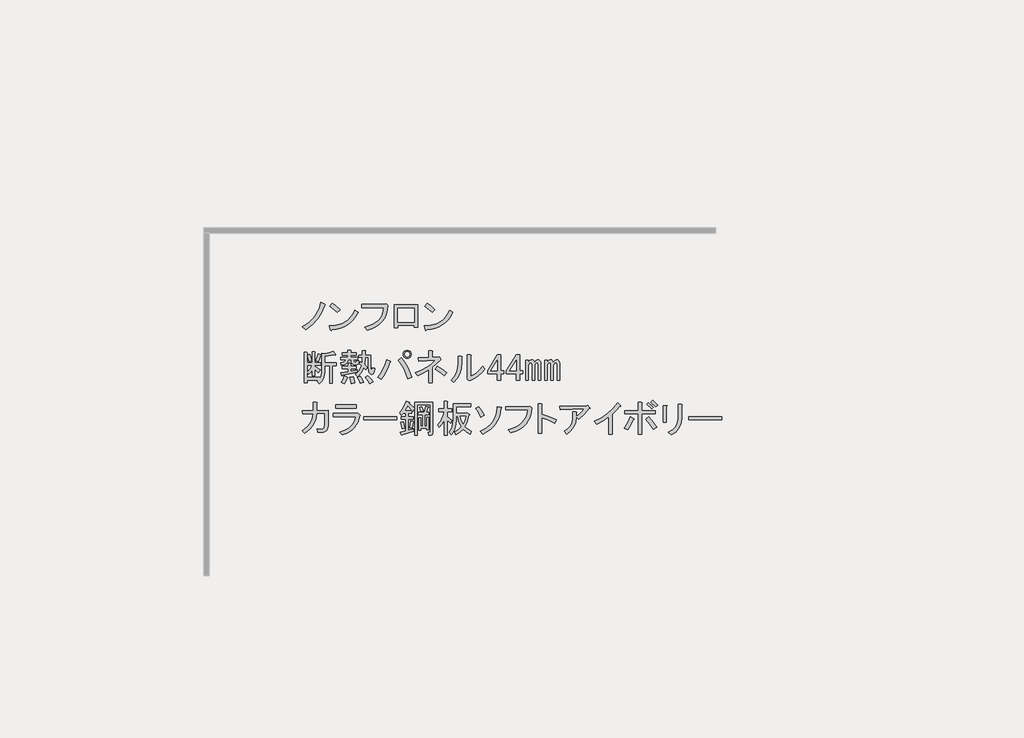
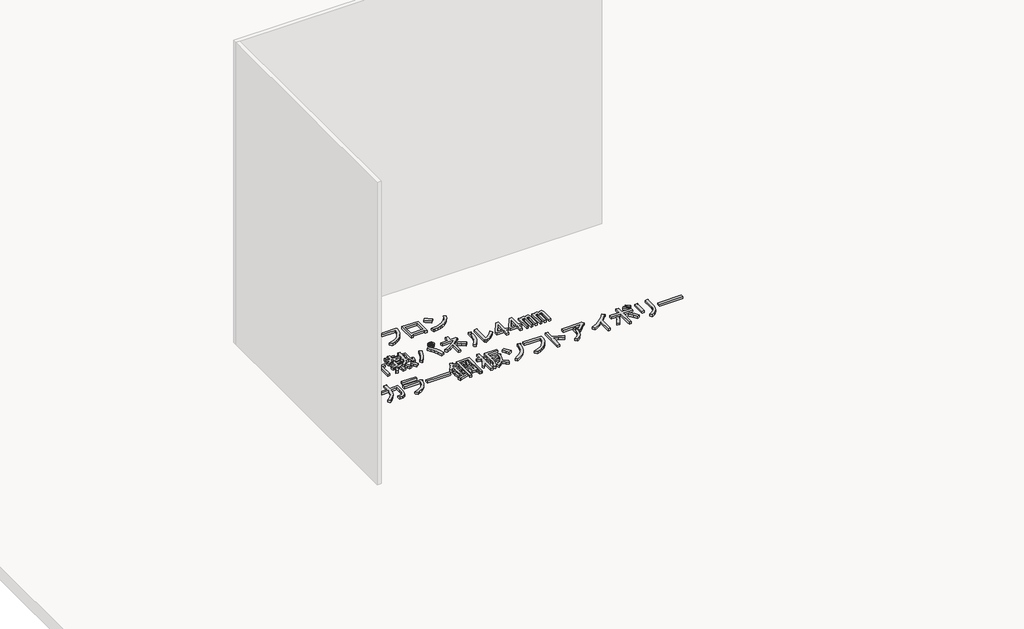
# One storey, part 66 of 117: 1 proxy.
"""IFC4 building model written with IfcOpenShell, lengths in millimetres."""

from ifc_helpers import new_model, si_unit, frame, origin, place, context, project, spatial, polyline, outline, extrude, element, save

model = new_model("IFC4")

# Units and contexts
model_context = context("Model", 3, world=origin())
ifc_project = project(units=[si_unit("LENGTHUNIT", "METRE", prefix="MILLI")], contexts=[model_context])

# Site, building, storey
site = spatial("IfcSite", under=ifc_project)
building = spatial("IfcBuilding", under=site)
storey = spatial("IfcBuildingStorey", under=building, Name="レベル 1", Elevation=500.0)

# Proxy
placement = place(None, origin())
element("IfcBuildingElementProxy", 1, Name="200㎜\u3000MS Pゴシック", ObjectType="200㎜\u3000MS Pゴシック", at=placement, inside=storey, context=model_context, shape_type="SweptSolid", body=[
    extrude(outline(polyline([(-23056.3293015, 11392.9503118), (-23081.9047498, 11333.1784775), (-23110.353844, 11287.2001434), (-23152.0217093, 11241.7965385), (-23201.1610538, 11204.439142), (-23228.7480543, 11226.2788507), (-23181.0455327, 11256.7394971), (-23141.3892195, 11295.2463519), (-23124.0036619, 11319.1694538), (-23108.6296565, 11347.2593423), (-23095.2672031, 11379.5160173), (-23083.9163019, 11415.9394788), (-23052.8809264, 11402.1459786), (-23049.7199159, 11397.5481452), (-23056.3293015, 11392.9503118)])), frame((0.0, 0.0, 500.0), z_axis=(0.0, 0.0, 1.0), x_axis=(1.0, 0.0, 0.0)), (0.0, 0.0, 1.0), 25.0),
    extrude(outline(polyline([(-22956.6022948, 11337.7763109), (-23015.2246708, 11384.9041033), (-22995.6838788, 11409.0427287), (-22968.3842429, 11389.2145721), (-22934.7625862, 11359.6160196), (-22956.6022948, 11337.7763109)])), frame((0.0, 0.0, 500.0), z_axis=(0.0, 0.0, 1.0), x_axis=(1.0, 0.0, 0.0)), (0.0, 0.0, 1.0), 25.0),
    extrude(outline(polyline([(-22794.5286672, 11337.7763109), (-22811.052131, 11308.034076), (-22830.1618761, 11282.0275808), (-22851.8579025, 11259.7568252), (-22876.1402102, 11241.2218093), (-22903.0087992, 11226.422533), (-22932.4636694, 11215.3589964), (-22964.504821, 11208.0311994), (-22999.1322539, 11204.439142), (-23004.8795456, 11196.3929336), (-23010.6268374, 11202.1402253), (-23019.8225042, 11232.0261425), (-22983.9917321, 11234.7022252), (-22951.2142088, 11241.0062859), (-22921.4899342, 11250.9383244), (-22894.8189084, 11264.4983409), (-22871.2011313, 11281.6863354), (-22850.636603, 11302.5023077), (-22833.1253234, 11326.946258), (-22818.6672926, 11355.0181862), (-22794.5286672, 11337.7763109)])), frame((0.0, 0.0, 500.0), z_axis=(0.0, 0.0, 1.0), x_axis=(1.0, 0.0, 0.0)), (0.0, 0.0, 1.0), 25.0),
    extrude(outline(polyline([(-22743.7685864, 11222.8304757), (-22709.985287, 11232.5110702), (-22680.4765359, 11244.8857078), (-22655.242333, 11259.9543884), (-22634.2826783, 11277.717112), (-22617.597572, 11298.1738786), (-22605.1870138, 11321.3246882), (-22597.0510039, 11347.1695409), (-22593.1895423, 11375.7084365), (-22765.6082951, 11375.7084365), (-22765.6082951, 11400.9965202), (-22590.8906256, 11400.9965202), (-22574.7982086, 11404.4448953), (-22562.1541668, 11392.9503118), (-22565.674383, 11356.4550091), (-22573.9361149, 11323.4080815), (-22586.9393625, 11293.8095289), (-22604.6841258, 11267.6593514), (-22627.1704048, 11244.957549), (-22654.3981995, 11225.7041216), (-22686.3675099, 11209.8990692), (-22723.078336, 11197.5423919), (-22743.7685864, 11222.8304757)])), frame((0.0, 0.0, 500.0), z_axis=(0.0, 0.0, 1.0), x_axis=(1.0, 0.0, 0.0)), (0.0, 0.0, 1.0), 25.0),
    extrude(outline(polyline([(-22329.044013, 11223.979934), (-22355.4815551, 11223.979934), (-22355.4815551, 11236.6239759), (-22483.0714321, 11236.6239759), (-22483.0714321, 11218.2326423), (-22509.5089742, 11218.2326423), (-22509.5089742, 11397.5481452), (-22329.044013, 11397.5481452), (-22329.044013, 11223.979934)]), holes=[polyline([(-22483.0714321, 11372.2600614), (-22483.0714321, 11261.9120596), (-22355.4815551, 11261.9120596), (-22355.4815551, 11372.2600614), (-22483.0714321, 11372.2600614)])]), frame((0.0, 0.0, 500.0), z_axis=(0.0, 0.0, 1.0), x_axis=(1.0, 0.0, 0.0)), (0.0, 0.0, 1.0), 25.0),
    extrude(outline(polyline([(-22052.9900951, 11337.7763109), (-22069.5135589, 11308.034076), (-22088.623304, 11282.0275808), (-22110.3193304, 11259.7568252), (-22134.6016381, 11241.2218093), (-22161.4702271, 11226.422533), (-22190.9250974, 11215.3589964), (-22222.9662489, 11208.0311994), (-22257.5936818, 11204.439142), (-22263.3409736, 11196.3929336), (-22269.0882653, 11202.1402253), (-22278.2839321, 11232.0261425), (-22242.4531601, 11234.7022252), (-22209.6756367, 11241.0062859), (-22179.9513622, 11250.9383244), (-22153.2803363, 11264.4983409), (-22129.6625593, 11281.6863354), (-22109.0980309, 11302.5023077), (-22091.5867514, 11326.946258), (-22077.1287205, 11355.0181862), (-22052.9900951, 11337.7763109)])), frame((0.0, 0.0, 500.0), z_axis=(0.0, 0.0, 1.0), x_axis=(1.0, 0.0, 0.0)), (0.0, 0.0, 1.0), 25.0),
    extrude(outline(polyline([(-22215.0637228, 11337.7763109), (-22273.6860987, 11384.9041033), (-22254.1453067, 11409.0427287), (-22226.8456709, 11389.2145721), (-22193.2240141, 11359.6160196), (-22215.0637228, 11337.7763109)])), frame((0.0, 0.0, 500.0), z_axis=(0.0, 0.0, 1.0), x_axis=(1.0, 0.0, 0.0)), (0.0, 0.0, 1.0), 25.0),
    extrude(outline(polyline([(-23122.9978859, 10960.7654779), (-23105.7560106, 11013.6405621), (-23085.0657603, 11007.8932704), (-23083.3415727, 11004.7322599), (-23087.364677, 11002.1459786), (-23104.6065522, 10953.8687278), (-23122.9978859, 10960.7654779)])), frame((0.0, 0.0, 500.0), z_axis=(0.0, 0.0, 1.0), x_axis=(1.0, 0.0, 0.0)), (0.0, 0.0, 1.0), 25.0),
    extrude(outline(polyline([(-22968.9704667, 11009.0427287), (-22970.6946542, 11004.4448953), (-22978.1661335, 11006.743812), (-23055.1798431, 10994.0997701), (-23055.1798431, 10944.673061), (-22963.2231749, 10944.673061), (-22963.2231749, 10922.8333523), (-22994.2585505, 10922.8333523), (-22994.2585505, 10782.5994334), (-23017.2477175, 10782.5994334), (-23017.2477175, 10922.8333523), (-23055.1798431, 10922.8333523), (-23055.1798431, 10873.4066432), (-23057.7661244, 10845.6041193), (-23065.5249683, 10820.8189236), (-23078.4563747, 10799.051056), (-23096.5603438, 10780.3005167), (-23113.8022191, 10799.8413086), (-23103.4570939, 10809.0369755), (-23193.1148454, 10809.0369755), (-23193.1148454, 10787.1972668), (-23216.1040124, 10787.1972668), (-23216.1040124, 11026.284604), (-23194.2643037, 11026.284604), (-23189.3791057, 11023.9856873), (-23193.1148454, 11019.3878539), (-23193.1148454, 10943.5236026), (-23150.5848863, 10943.5236026), (-23150.5848863, 11030.8824374), (-23132.1935527, 11030.8824374), (-23127.3083547, 11028.5835207), (-23131.0440943, 11023.9856873), (-23131.0440943, 10943.5236026), (-23087.364677, 10943.5236026), (-23087.364677, 10925.132269), (-23131.0440943, 10925.132269), (-23131.0440943, 10915.9366022), (-23090.813052, 10889.4990601), (-23104.6065522, 10867.6593514), (-23131.0440943, 10894.0968935), (-23131.0440943, 10841.2218093), (-23150.5848863, 10841.2218093), (-23150.5848863, 10889.4990601), (-23163.8036574, 10869.6709035), (-23178.1718868, 10853.8658512), (-23190.8159287, 10872.2571848), (-23168.97622, 10896.3958102), (-23151.7343447, 10925.132269), (-23193.1148454, 10925.132269), (-23193.1148454, 10830.8766841), (-23095.4108854, 10830.8766841), (-23095.4108854, 10817.0831839), (-23082.479479, 10841.2218093), (-23078.1690102, 10874.5561015), (-23078.1690102, 11019.3878539), (-23056.3293015, 11013.6405621), (-23020.1213634, 11021.1120414), (-22989.660717, 11034.3308125), (-22968.9704667, 11009.0427287)])), frame((0.0, 0.0, 500.0), z_axis=(0.0, 0.0, 1.0), x_axis=(1.0, 0.0, 0.0)), (0.0, 0.0, 1.0), 25.0),
    extrude(outline(polyline([(-23177.0224284, 10952.7192695), (-23189.6664703, 11003.2954369), (-23170.1256783, 11010.1921871), (-23162.3668344, 10986.0535617), (-23157.4816364, 10959.6160196), (-23177.0224284, 10952.7192695)])), frame((0.0, 0.0, 500.0), z_axis=(0.0, 0.0, 1.0), x_axis=(1.0, 0.0, 0.0)), (0.0, 0.0, 1.0), 25.0),
    extrude(outline(polyline([(-22878.1632569, 10832.0261425), (-22874.7148818, 10827.1409445), (-22880.4621736, 10823.979934), (-22890.2325696, 10798.4044857), (-22901.1524239, 10779.1510583), (-22924.141591, 10790.6456418), (-22911.4975491, 10814.209538), (-22901.1524239, 10841.2218093), (-22878.1632569, 10832.0261425)])), frame((0.0, 0.0, 500.0), z_axis=(0.0, 0.0, 1.0), x_axis=(1.0, 0.0, 0.0)), (0.0, 0.0, 1.0), 25.0),
    extrude(outline(polyline([(-22833.3343812, 10836.6239759), (-22823.2766206, 10809.32434), (-22818.3914226, 10787.1972668), (-22847.1278814, 10781.449975), (-22849.7141627, 10803.0023191), (-22857.4730066, 10833.1756008), (-22833.3343812, 10836.6239759)])), frame((0.0, 0.0, 500.0), z_axis=(0.0, 0.0, 1.0), x_axis=(1.0, 0.0, 0.0)), (0.0, 0.0, 1.0), 25.0),
    extrude(outline(polyline([(-22718.388546, 10842.3712677), (-22693.6751914, 10821.1062881), (-22674.7091286, 10796.3929336), (-22701.1466707, 10781.449975), (-22720.4000981, 10811.0485276), (-22739.0787963, 10830.8766841), (-22718.388546, 10842.3712677)])), frame((0.0, 0.0, 500.0), z_axis=(0.0, 0.0, 1.0), x_axis=(1.0, 0.0, 0.0)), (0.0, 0.0, 1.0), 25.0),
    extrude(outline(polyline([(-22777.0109219, 10783.7488917), (-22785.344495, 10808.4622463), (-22798.8506306, 10829.7272258), (-22778.1603803, 10837.7734343), (-22761.2058696, 10816.2210902), (-22749.4239215, 10792.9445585), (-22777.0109219, 10783.7488917)])), frame((0.0, 0.0, 500.0), z_axis=(0.0, 0.0, 1.0), x_axis=(1.0, 0.0, 0.0)), (0.0, 0.0, 1.0), 25.0),
    extrude(outline(polyline([(-22916.0953825, 10846.9691011), (-22918.1069346, 10842.0839031), (-22921.8426743, 10843.520726), (-22927.589966, 10867.6593514), (-22872.4159651, 10875.7055599), (-22872.4159651, 10898.6947269), (-22916.0953825, 10898.6947269), (-22916.0953825, 10917.0860605), (-22872.4159651, 10917.0860605), (-22872.4159651, 10940.0752276), (-22854.0246315, 10940.0752276), (-22849.1394335, 10937.7763109), (-22852.8751732, 10933.1784775), (-22852.8751732, 10917.0860605), (-22808.0462974, 10917.0860605), (-22808.0462974, 10898.6947269), (-22852.8751732, 10898.6947269), (-22852.8751732, 10879.1539349), (-22802.2990057, 10888.3496017), (-22802.2990057, 10872.2571848), (-22916.0953825, 10846.9691011)])), frame((0.0, 0.0, 500.0), z_axis=(0.0, 0.0, 1.0), x_axis=(1.0, 0.0, 0.0)), (0.0, 0.0, 1.0), 25.0),
    extrude(outline(polyline([(-22845.978423, 10968.8116864), (-22871.2665068, 10968.8116864), (-22875.8643402, 10951.3542877), (-22886.2094654, 10938.0636755), (-22902.3018823, 10928.9398498), (-22924.141591, 10923.9828107), (-22928.7394244, 10943.5236026), (-22903.4513406, 10952.1445403), (-22895.9798614, 10959.4723373), (-22891.9567571, 10968.8116864), (-22927.589966, 10968.8116864), (-22927.589966, 10987.20302), (-22873.5654235, 10987.20302), (-22873.5654235, 11004.4448953), (-22917.2448409, 11004.4448953), (-22917.2448409, 11022.8362289), (-22873.5654235, 11022.8362289), (-22873.5654235, 11041.2275626), (-22851.7257148, 11041.2275626), (-22846.8405168, 11038.9286459), (-22850.5762564, 11034.3308125), (-22850.5762564, 11022.8362289), (-22808.0462974, 11022.8362289), (-22808.0462974, 11004.4448953), (-22850.5762564, 11004.4448953), (-22850.5762564, 10987.20302), (-22797.7011723, 10987.20302), (-22797.7011723, 10968.8116864), (-22826.4376311, 10968.8116864), (-22826.4376311, 10956.1676445), (-22825.0008081, 10950.9950819), (-22820.6903393, 10949.2708944), (-22810.3452141, 10949.2708944), (-22806.6094745, 10952.4319049), (-22806.8968391, 10961.9149363), (-22787.3560471, 10959.6160196), (-22790.229693, 10938.0636755), (-22795.5459378, 10932.6755894), (-22803.448464, 10930.8795608), (-22827.5870894, 10930.8795608), (-22841.3805896, 10935.7647588), (-22845.978423, 10950.4203528), (-22845.978423, 10968.8116864)])), frame((0.0, 0.0, 500.0), z_axis=(0.0, 0.0, 1.0), x_axis=(1.0, 0.0, 0.0)), (0.0, 0.0, 1.0), 25.0),
    extrude(outline(polyline([(-22714.9401709, 10986.0535617), (-22736.7798796, 10986.0535617), (-22741.377713, 10928.5806441), (-22721.836921, 10910.1893104), (-22732.1820462, 10888.3496017), (-22748.2744631, 10904.4420187), (-22767.5278905, 10866.7972576), (-22797.7011723, 10834.3250592), (-22814.9430475, 10855.0153095), (-22799.8564067, 10866.9409399), (-22786.7813179, 10882.0275808), (-22775.7177813, 10900.2752321), (-22766.6657967, 10921.683894), (-22783.907672, 10936.6268525), (-22775.8614636, 10953.8687278), (-22762.0679633, 10943.5236026), (-22759.7690466, 10986.0535617), (-22787.3560471, 10986.0535617), (-22787.3560471, 11004.4448953), (-22759.7690466, 11004.4448953), (-22759.7690466, 11038.9286459), (-22737.9293379, 11038.9286459), (-22733.04414, 11036.6297292), (-22736.7798796, 11032.0318957), (-22736.7798796, 11004.4448953), (-22695.3993789, 11004.4448953), (-22695.3993789, 10907.8903937), (-22691.9510039, 10883.7517683), (-22688.7181523, 10881.7402162), (-22685.9163475, 10884.9012267), (-22681.6058787, 10906.7409354), (-22662.0650867, 10899.8441853), (-22666.591079, 10873.0474374), (-22674.421764, 10857.0268616), (-22685.5571418, 10851.7824579), (-22699.9972123, 10857.3142262), (-22706.5347567, 10864.6420232), (-22711.2044313, 10876.280289), (-22714.9401709, 10912.4882271), (-22714.9401709, 10986.0535617)])), frame((0.0, 0.0, 500.0), z_axis=(0.0, 0.0, 1.0), x_axis=(1.0, 0.0, 0.0)), (0.0, 0.0, 1.0), 25.0),
    extrude(outline(polyline([(-22456.3120417, 10983.754645), (-22429.6589762, 10947.0438188), (-22407.1726971, 10909.3272167), (-22388.8532047, 10870.6048384), (-22374.7004987, 10830.8766841), (-22405.7358742, 10820.531559), (-22421.1817208, 10863.6362472), (-22438.7828018, 10902.143102), (-22458.5391173, 10936.0521234), (-22480.4506671, 10965.3633113), (-22456.3120417, 10983.754645)])), frame((0.0, 0.0, 500.0), z_axis=(0.0, 0.0, 1.0), x_axis=(1.0, 0.0, 0.0)), (0.0, 0.0, 1.0), 25.0),
    extrude(outline(polyline([(-22543.6708765, 10957.3171029), (-22539.6477722, 10951.8571757), (-22545.9697932, 10946.9719777), (-22557.8954236, 10911.5542922), (-22572.9820644, 10877.717112), (-22591.2297158, 10845.460437), (-22612.6383776, 10814.7842672), (-22639.0759197, 10832.0261425), (-22615.8712292, 10863.4925649), (-22596.8333252, 10896.9705394), (-22581.9622078, 10932.460066), (-22571.2578769, 10969.9611447), (-22543.6708765, 10957.3171029)])), frame((0.0, 0.0, 500.0), z_axis=(0.0, 0.0, 1.0), x_axis=(1.0, 0.0, 0.0)), (0.0, 0.0, 1.0), 25.0),
    extrude(outline(polyline([(-22410.3337076, 10978.0073532), (-22422.9777495, 10980.3062699), (-22433.3228747, 10987.20302), (-22440.2196248, 10997.5481452), (-22442.5185415, 11010.1921871), (-22440.2196248, 11022.8362289), (-22433.3228747, 11033.1813541), (-22422.9777495, 11040.0781042), (-22410.3337076, 11042.3770209), (-22397.6896657, 11040.0781042), (-22387.3445406, 11033.1813541), (-22380.4477905, 11022.8362289), (-22378.1488738, 11010.1921871), (-22380.4477905, 10997.5481452), (-22387.3445406, 10987.20302), (-22397.6896657, 10980.3062699), (-22410.3337076, 10978.0073532)]), holes=[polyline([(-22410.3337076, 10989.5019367), (-22402.0001346, 10990.9387597), (-22395.390749, 10995.2492285), (-22391.0802802, 11001.858614), (-22389.6434573, 11010.1921871), (-22391.0802802, 11018.5257601), (-22395.390749, 11025.1351456), (-22402.0001346, 11029.4456145), (-22410.3337076, 11030.8824374), (-22418.6672807, 11029.4456145), (-22425.2766662, 11025.1351456), (-22429.587135, 11018.5257601), (-22431.023958, 11010.1921871), (-22429.587135, 11001.858614), (-22425.2766662, 10995.2492285), (-22418.6672807, 10990.9387597), (-22410.3337076, 10989.5019367)])]), frame((0.0, 0.0, 500.0), z_axis=(0.0, 0.0, 1.0), x_axis=(1.0, 0.0, 0.0)), (0.0, 0.0, 1.0), 25.0),
    extrude(outline(polyline([(-22120.6702029, 10844.6701844), (-22157.7402348, 10873.9813723), (-22190.7871624, 10895.2463519), (-22173.5452871, 10917.0860605), (-22134.7510677, 10893.8095289), (-22101.1294109, 10867.6593514), (-22120.6702029, 10844.6701844)])), frame((0.0, 0.0, 500.0), z_axis=(0.0, 0.0, 1.0), x_axis=(1.0, 0.0, 0.0)), (0.0, 0.0, 1.0), 25.0),
    extrude(outline(polyline([(-22166.648537, 10988.3524784), (-22159.7517869, 10990.6513951), (-22147.107745, 10973.4095198), (-22145.9582866, 10967.3748634), (-22151.7055784, 10965.3633113), (-22214.9257878, 10909.0398521), (-22214.9257878, 10788.3467251), (-22241.3633299, 10788.3467251), (-22241.3633299, 10890.6485184), (-22281.5943722, 10866.5098931), (-22326.4232479, 10844.6701844), (-22345.9640399, 10865.3604347), (-22300.4167527, 10884.8293855), (-22259.1799343, 10907.6030291), (-22222.2535848, 10933.6813655), (-22189.637704, 10963.0643946), (-22319.5264978, 10957.3171029), (-22322.9748729, 10982.6051866), (-22241.3633299, 10984.9041033), (-22241.3633299, 11036.6297292), (-22218.3741628, 11036.6297292), (-22212.3395065, 11033.1813541), (-22214.9257878, 11027.4340623), (-22214.9257878, 10986.0535617), (-22166.648537, 10988.3524784)])), frame((0.0, 0.0, 500.0), z_axis=(0.0, 0.0, 1.0), x_axis=(1.0, 0.0, 0.0)), (0.0, 0.0, 1.0), 25.0),
    extrude(outline(polyline([(-22067.703162, 10806.7380587), (-22042.5587606, 10835.9774056), (-22024.5984738, 10868.5214452), (-22013.8223018, 10904.3701775), (-22010.2302444, 10943.5236026), (-22010.2302444, 10995.2492285), (-21986.091619, 10995.2492285), (-21980.3443273, 10991.8008534), (-21983.7927023, 10986.0535617), (-21983.7927023, 10944.673061), (-21987.6002831, 10898.9102504), (-21999.0230255, 10858.17632), (-22018.0609295, 10822.4712699), (-22044.713995, 10791.7951002), (-22067.703162, 10806.7380587)])), frame((0.0, 0.0, 500.0), z_axis=(0.0, 0.0, 1.0), x_axis=(1.0, 0.0, 0.0)), (0.0, 0.0, 1.0), 25.0),
    extrude(outline(polyline([(-21913.6757429, 10837.7734343), (-21888.8905471, 10849.9864292), (-21865.1111275, 10867.0846222), (-21842.3374839, 10889.0680132), (-21820.5696163, 10915.9366022), (-21804.4771994, 10894.0968935), (-21827.753731, 10866.2943696), (-21853.9039086, 10842.6586322), (-21882.9277319, 10823.1896814), (-21914.8252012, 10807.8875171), (-21924.020868, 10803.2896837), (-21942.4122017, 10817.0831839), (-21940.113285, 10822.8304757), (-21940.113285, 11007.8932704), (-21915.9746596, 11007.8932704), (-21910.2273678, 11004.4448953), (-21913.6757429, 10998.6976035), (-21913.6757429, 10837.7734343)])), frame((0.0, 0.0, 500.0), z_axis=(0.0, 0.0, 1.0), x_axis=(1.0, 0.0, 0.0)), (0.0, 0.0, 1.0), 25.0),
    extrude(outline(polyline([(-21704.4743228, 11006.743812), (-21678.0367807, 11006.743812), (-21678.0367807, 10880.3033933), (-21653.8981553, 10880.3033933), (-21653.8981553, 10858.4636846), (-21678.0367807, 10858.4636846), (-21678.0367807, 10807.8875171), (-21704.4743228, 10807.8875171), (-21704.4743228, 10858.4636846), (-21781.4880324, 10858.4636846), (-21781.4880324, 10881.4528516), (-21704.4743228, 11006.743812)]), holes=[polyline([(-21704.4743228, 10964.213853), (-21756.1999486, 10880.3033933), (-21704.4743228, 10880.3033933), (-21704.4743228, 10964.213853)])]), frame((0.0, 0.0, 500.0), z_axis=(0.0, 0.0, 1.0), x_axis=(1.0, 0.0, 0.0)), (0.0, 0.0, 1.0), 25.0),
    extrude(outline(polyline([(-21557.3436537, 11006.743812), (-21530.9061116, 11006.743812), (-21530.9061116, 10880.3033933), (-21506.7674862, 10880.3033933), (-21506.7674862, 10858.4636846), (-21530.9061116, 10858.4636846), (-21530.9061116, 10807.8875171), (-21557.3436537, 10807.8875171), (-21557.3436537, 10858.4636846), (-21634.3573633, 10858.4636846), (-21634.3573633, 10881.4528516), (-21557.3436537, 11006.743812)]), holes=[polyline([(-21557.3436537, 10964.213853), (-21609.0692796, 10880.3033933), (-21557.3436537, 10880.3033933), (-21557.3436537, 10964.213853)])]), frame((0.0, 0.0, 500.0), z_axis=(0.0, 0.0, 1.0), x_axis=(1.0, 0.0, 0.0)), (0.0, 0.0, 1.0), 25.0),
    extrude(outline(polyline([(-21463.0880689, 10806.7380587), (-21482.6288608, 10806.7380587), (-21482.6288608, 10964.213853), (-21463.0880689, 10964.213853), (-21463.0880689, 10946.9719777), (-21451.0187562, 10962.4896654), (-21437.7999851, 10967.662228), (-21428.6043183, 10966.2254051), (-21421.7075682, 10961.9149363), (-21414.8108181, 10948.121436), (-21401.8794116, 10962.77703), (-21388.373276, 10967.662228), (-21380.0397029, 10966.2254051), (-21373.4303174, 10961.9149363), (-21368.2577548, 10953.2939986), (-21366.5335673, 10941.2246859), (-21366.5335673, 10806.7380587), (-21386.0743593, 10806.7380587), (-21386.0743593, 10930.8795608), (-21388.6606406, 10940.3625922), (-21396.4194844, 10943.5236026), (-21406.7646096, 10938.9257692), (-21412.799266, 10930.3048316), (-21414.8108181, 10920.5344356), (-21414.8108181, 10806.7380587), (-21434.3516101, 10806.7380587), (-21434.3516101, 10930.8795608), (-21436.9378914, 10940.3625922), (-21444.6967352, 10943.5236026), (-21455.0418604, 10938.9257692), (-21461.0765167, 10930.3048316), (-21463.0880689, 10920.5344356), (-21463.0880689, 10806.7380587)])), frame((0.0, 0.0, 500.0), z_axis=(0.0, 0.0, 1.0), x_axis=(1.0, 0.0, 0.0)), (0.0, 0.0, 1.0), 25.0),
    extrude(outline(polyline([(-21241.2426069, 10967.662228), (-21232.9090339, 10966.2254051), (-21226.2996483, 10961.9149363), (-21221.1270858, 10953.2939986), (-21219.4028982, 10941.2246859), (-21219.4028982, 10806.7380587), (-21238.9436902, 10806.7380587), (-21238.9436902, 10930.8795608), (-21241.5299715, 10940.3625922), (-21249.2888154, 10943.5236026), (-21259.6339406, 10938.9257692), (-21265.6685969, 10930.3048316), (-21267.680149, 10920.5344356), (-21267.680149, 10806.7380587), (-21287.220941, 10806.7380587), (-21287.220941, 10930.8795608), (-21289.8072223, 10940.3625922), (-21297.5660662, 10943.5236026), (-21307.9111913, 10938.9257692), (-21313.9458477, 10930.3048316), (-21315.9573998, 10920.5344356), (-21315.9573998, 10806.7380587), (-21335.4981918, 10806.7380587), (-21335.4981918, 10964.213853), (-21315.9573998, 10964.213853), (-21315.9573998, 10946.9719777), (-21303.8880871, 10962.4896654), (-21290.6693161, 10967.662228), (-21281.4736492, 10966.2254051), (-21274.5768991, 10961.9149363), (-21267.680149, 10948.121436), (-21254.7487426, 10962.77703), (-21241.2426069, 10967.662228)])), frame((0.0, 0.0, 500.0), z_axis=(0.0, 0.0, 1.0), x_axis=(1.0, 0.0, 0.0)), (0.0, 0.0, 1.0), 25.0),
    extrude(outline(polyline([(-23052.8809264, 10549.2708944), (-23118.4000525, 10546.9719777), (-23126.6617844, 10500.706279), (-23144.55023, 10459.6131429), (-23172.0653893, 10423.6925694), (-23209.2072623, 10392.9445585), (-23228.7480543, 10412.4853505), (-23193.7614157, 10440.7189213), (-23168.1141262, 10472.5445494), (-23151.8061858, 10507.9622349), (-23144.8375946, 10546.9719777), (-23226.4491376, 10544.673061), (-23228.7480543, 10567.662228), (-23143.6881362, 10569.9611447), (-23143.6881362, 10634.3308125), (-23119.5495108, 10634.3308125), (-23112.6527607, 10630.8824374), (-23117.2505941, 10625.1351456), (-23117.2505941, 10569.9611447), (-23026.4433843, 10573.4095198), (-23026.4433843, 10502.143102), (-23029.0296656, 10454.1532158), (-23036.7885095, 10422.8304757), (-23043.397895, 10412.7727151), (-23052.8809264, 10405.5886004), (-23065.2376037, 10401.2781316), (-23080.4679269, 10399.8413086), (-23108.0549273, 10399.8413086), (-23111.5033024, 10428.5777674), (-23081.6173852, 10426.2788507), (-23067.5365204, 10429.1524966), (-23059.7776765, 10437.7734343), (-23054.6051139, 10463.061518), (-23052.8809264, 10502.143102), (-23052.8809264, 10549.2708944)])), frame((0.0, 0.0, 500.0), z_axis=(0.0, 0.0, 1.0), x_axis=(1.0, 0.0, 0.0)), (0.0, 0.0, 1.0), 25.0),
    extrude(outline(polyline([(-22938.0270479, 10403.2896837), (-22888.3848153, 10421.6091762), (-22868.1435721, 10433.7323697), (-22850.9555777, 10447.8311948), (-22836.820832, 10463.9056515), (-22825.7393351, 10481.9557397), (-22817.7110869, 10501.9814594), (-22812.7360875, 10523.9828107), (-22987.453757, 10523.9828107), (-22987.453757, 10549.2708944), (-22811.5866291, 10549.2708944), (-22801.241504, 10552.7192695), (-22780.5512536, 10540.0752276), (-22777.6776078, 10534.6153004), (-22782.8501703, 10529.7301024), (-22788.9746281, 10502.2508637), (-22798.1523347, 10477.2860651), (-22810.3832899, 10454.8357067), (-22825.667494, 10434.8997884), (-22844.0049467, 10417.4783102), (-22865.3956483, 10402.5712722), (-22889.8395985, 10390.1786744), (-22917.3367975, 10380.3005167), (-22938.0270479, 10403.2896837)])), frame((0.0, 0.0, 500.0), z_axis=(0.0, 0.0, 1.0), x_axis=(1.0, 0.0, 0.0)), (0.0, 0.0, 1.0), 25.0),
    extrude(outline(polyline([(-22808.1382541, 10589.5019367), (-22966.7635067, 10589.5019367), (-22966.7635067, 10614.7900205), (-22808.1382541, 10614.7900205), (-22808.1382541, 10589.5019367)])), frame((0.0, 0.0, 500.0), z_axis=(0.0, 0.0, 1.0), x_axis=(1.0, 0.0, 0.0)), (0.0, 0.0, 1.0), 25.0),
    extrude(outline(polyline([(-22749.1020731, 10498.6947269), (-22749.1020731, 10523.9828107), (-22492.7728606, 10523.9828107), (-22492.7728606, 10498.6947269), (-22749.1020731, 10498.6947269)])), frame((0.0, 0.0, 500.0), z_axis=(0.0, 0.0, 1.0), x_axis=(1.0, 0.0, 0.0)), (0.0, 0.0, 1.0), 25.0),
    extrude(outline(polyline([(-22365.4588536, 10565.3633113), (-22406.8393542, 10609.0427287), (-22428.6790629, 10569.9611447), (-22373.505062, 10569.9611447), (-22373.505062, 10551.5698111), (-22399.9426041, 10551.5698111), (-22399.9426041, 10522.8333523), (-22362.0104785, 10522.8333523), (-22362.0104785, 10504.4420187), (-22399.9426041, 10504.4420187), (-22399.9426041, 10417.0831839), (-22360.8610201, 10427.4283091), (-22358.5621034, 10407.8875171), (-22450.5187716, 10382.5994334), (-22452.8176883, 10376.8521416), (-22457.4155217, 10380.3005167), (-22464.3122718, 10403.2896837), (-22419.4833961, 10412.4853505), (-22419.4833961, 10504.4420187), (-22457.4155217, 10504.4420187), (-22457.4155217, 10522.8333523), (-22419.4833961, 10522.8333523), (-22419.4833961, 10551.5698111), (-22441.3231048, 10551.5698111), (-22456.2660634, 10533.1784775), (-22468.9101052, 10553.8687278), (-22440.7483756, 10591.5134888), (-22416.035021, 10642.3770209), (-22394.1953124, 10636.6297292), (-22390.7469373, 10632.8939895), (-22396.4942291, 10630.8824374), (-22397.6436874, 10627.4340623), (-22352.8148117, 10589.5019367), (-22365.4588536, 10565.3633113)])), frame((0.0, 0.0, 500.0), z_axis=(0.0, 0.0, 1.0), x_axis=(1.0, 0.0, 0.0)), (0.0, 0.0, 1.0), 25.0),
    extrude(outline(polyline([(-22297.6408108, 10602.1459786), (-22290.4566961, 10586.9156554), (-22284.9967689, 10566.5127697), (-22302.2386442, 10560.7654779), (-22313.7332277, 10597.5481452), (-22297.6408108, 10602.1459786)])), frame((0.0, 0.0, 500.0), z_axis=(0.0, 0.0, 1.0), x_axis=(1.0, 0.0, 0.0)), (0.0, 0.0, 1.0), 25.0),
    extrude(outline(polyline([(-22244.7657266, 10600.9965202), (-22242.1794453, 10597.5481452), (-22248.2141016, 10594.0997701), (-22260.8581435, 10556.1676445), (-22240.1678932, 10556.1676445), (-22240.1678932, 10537.7763109), (-22271.2032687, 10537.7763109), (-22271.2032687, 10449.2680178), (-22256.2603101, 10449.2680178), (-22256.2603101, 10517.0860605), (-22240.1678932, 10517.0860605), (-22240.1678932, 10422.8304757), (-22256.2603101, 10422.8304757), (-22256.2603101, 10430.8766841), (-22302.2386442, 10430.8766841), (-22302.2386442, 10418.2326423), (-22318.3310611, 10418.2326423), (-22318.3310611, 10514.7871438), (-22302.2386442, 10514.7871438), (-22302.2386442, 10449.2680178), (-22287.2956856, 10449.2680178), (-22287.2956856, 10537.7763109), (-22322.9288945, 10537.7763109), (-22322.9288945, 10556.1676445), (-22276.9505604, 10556.1676445), (-22266.6054353, 10605.5943537), (-22244.7657266, 10600.9965202)])), frame((0.0, 0.0, 500.0), z_axis=(0.0, 0.0, 1.0), x_axis=(1.0, 0.0, 0.0)), (0.0, 0.0, 1.0), 25.0),
    extrude(outline(polyline([(-22350.515895, 10634.3308125), (-22210.281976, 10634.3308125), (-22210.281976, 10394.0940169), (-22214.0177157, 10382.8867979), (-22225.2249346, 10379.1510583), (-22241.3173515, 10379.1510583), (-22245.9151849, 10400.990767), (-22234.4206014, 10400.990767), (-22230.9722264, 10402.1402253), (-22229.822768, 10405.5886004), (-22229.822768, 10615.9394788), (-22330.975103, 10615.9394788), (-22330.975103, 10376.8521416), (-22350.515895, 10376.8521416), (-22350.515895, 10634.3308125)])), frame((0.0, 0.0, 500.0), z_axis=(0.0, 0.0, 1.0), x_axis=(1.0, 0.0, 0.0)), (0.0, 0.0, 1.0), 25.0),
    extrude(outline(polyline([(-22362.0104785, 10486.050685), (-22359.4241972, 10482.8896746), (-22363.1599368, 10480.3033933), (-22371.2061453, 10433.1756008), (-22389.5974789, 10435.4745175), (-22383.8501872, 10489.4990601), (-22362.0104785, 10486.050685)])), frame((0.0, 0.0, 500.0), z_axis=(0.0, 0.0, 1.0), x_axis=(1.0, 0.0, 0.0)), (0.0, 0.0, 1.0), 25.0),
    extrude(outline(polyline([(-22439.0241881, 10484.9012267), (-22427.5296046, 10433.1756008), (-22448.2198549, 10427.4283091), (-22459.7144384, 10479.1539349), (-22439.0241881, 10484.9012267)])), frame((0.0, 0.0, 500.0), z_axis=(0.0, 0.0, 1.0), x_axis=(1.0, 0.0, 0.0)), (0.0, 0.0, 1.0), 25.0),
    extrude(outline(polyline([(-22039.0126816, 10405.5886004), (-22010.2762228, 10422.8304757), (-21988.4365141, 10444.6701844), (-22006.2531185, 10486.6254142), (-22016.0235145, 10527.4311857), (-22028.6675564, 10527.4311857), (-22028.6675564, 10503.2925603), (-22031.1101554, 10461.5528539), (-22038.4379524, 10427.1409445), (-22050.6509474, 10400.0568321), (-22067.7491404, 10380.3005167), (-22081.5426406, 10403.2896837), (-22068.4675518, 10420.6752413), (-22059.1282027, 10442.9459968), (-22053.5245933, 10470.1019504), (-22051.6567234, 10502.143102), (-22051.6567234, 10622.8362289), (-21914.8711796, 10622.8362289), (-21914.8711796, 10600.9965202), (-22028.6675564, 10600.9965202), (-22028.6675564, 10549.2708944), (-21949.3549301, 10549.2708944), (-21943.6076384, 10555.0181862), (-21924.0668464, 10541.2246859), (-21922.6300234, 10537.4889463), (-21927.5152214, 10533.1784775), (-21939.8718987, 10486.6254142), (-21958.5505969, 10445.8196427), (-21939.5845341, 10427.4283091), (-21907.9744294, 10409.0369755), (-21917.1700963, 10384.8983501), (-21945.0444613, 10400.990767), (-21973.4935555, 10426.2788507), (-21997.9195455, 10401.8528608), (-22029.8170148, 10381.449975), (-22039.0126816, 10405.5886004)]), holes=[polyline([(-21994.1838058, 10527.4311857), (-21986.1375974, 10494.3842581), (-21973.4935555, 10466.5098931), (-21960.8495136, 10492.6600706), (-21952.8033052, 10527.4311857), (-21994.1838058, 10527.4311857)])]), frame((0.0, 0.0, 500.0), z_axis=(0.0, 0.0, 1.0), x_axis=(1.0, 0.0, 0.0)), (0.0, 0.0, 1.0), 25.0),
    extrude(outline(polyline([(-22121.7736829, 10376.8521416), (-22121.7736829, 10496.3958102), (-22139.5902874, 10462.1994242), (-22158.5563502, 10440.072351), (-22170.0509337, 10460.7626013), (-22152.8090584, 10483.4644037), (-22139.0155582, 10507.8903937), (-22128.670433, 10534.0405712), (-22121.7736829, 10561.9149363), (-22163.1541836, 10561.9149363), (-22163.1541836, 10583.754645), (-22121.7736829, 10583.754645), (-22121.7736829, 10643.5264793), (-22099.9339742, 10643.5264793), (-22095.0487762, 10641.2275626), (-22098.7845159, 10636.6297292), (-22098.7845159, 10583.754645), (-22060.8523903, 10583.754645), (-22060.8523903, 10561.9149363), (-22098.7845159, 10561.9149363), (-22098.7845159, 10521.683894), (-22060.8523903, 10495.2463519), (-22071.1975154, 10472.2571848), (-22098.7845159, 10495.2463519), (-22098.7845159, 10376.8521416), (-22121.7736829, 10376.8521416)])), frame((0.0, 0.0, 500.0), z_axis=(0.0, 0.0, 1.0), x_axis=(1.0, 0.0, 0.0)), (0.0, 0.0, 1.0), 25.0),
    extrude(outline(polyline([(-21835.5585533, 10520.5344356), (-21855.961439, 10559.9033842), (-21875.7895956, 10588.3524784), (-21850.5015118, 10602.1459786), (-21830.3859907, 10573.4095198), (-21809.1210112, 10535.4773942), (-21835.5585533, 10520.5344356)])), frame((0.0, 0.0, 500.0), z_axis=(0.0, 0.0, 1.0), x_axis=(1.0, 0.0, 0.0)), (0.0, 0.0, 1.0), 25.0),
    extrude(outline(polyline([(-21741.3029684, 10482.60231), (-21729.1618145, 10503.4362426), (-21719.1758951, 10530.3048316), (-21711.3452101, 10563.2080769), (-21705.6697595, 10602.1459786), (-21676.9333007, 10597.5481452), (-21672.0481027, 10593.8124055), (-21678.082759, 10587.20302), (-21683.3271628, 10551.8571757), (-21692.1636238, 10519.3849772), (-21704.5921423, 10489.7864247), (-21720.6127181, 10463.061518), (-21736.705135, 10444.0954552), (-21758.5448437, 10425.1293924), (-21819.4661363, 10387.1972668), (-21840.1563867, 10407.8875171), (-21809.4083758, 10423.7644106), (-21782.6834691, 10441.5091739), (-21759.9816666, 10461.121807), (-21741.3029684, 10482.60231)])), frame((0.0, 0.0, 500.0), z_axis=(0.0, 0.0, 1.0), x_axis=(1.0, 0.0, 0.0)), (0.0, 0.0, 1.0), 25.0),
    extrude(outline(polyline([(-21619.6902747, 10422.8304757), (-21585.9069754, 10432.5110702), (-21556.3982242, 10444.8857078), (-21531.1640214, 10459.9543884), (-21510.2043667, 10477.717112), (-21493.5192603, 10498.1738786), (-21481.1087022, 10521.3246882), (-21472.9726923, 10547.1695409), (-21469.1112306, 10575.7084365), (-21641.5299834, 10575.7084365), (-21641.5299834, 10600.9965202), (-21466.8123139, 10600.9965202), (-21450.719897, 10604.4448953), (-21438.0758551, 10592.9503118), (-21441.5960713, 10556.4550091), (-21449.8578032, 10523.4080815), (-21462.8610508, 10493.8095289), (-21480.6058141, 10467.6593514), (-21503.0920932, 10444.957549), (-21530.3198879, 10425.7041216), (-21562.2891983, 10409.8990692), (-21599.0000244, 10397.5423919), (-21619.6902747, 10422.8304757)])), frame((0.0, 0.0, 500.0), z_axis=(0.0, 0.0, 1.0), x_axis=(1.0, 0.0, 0.0)), (0.0, 0.0, 1.0), 25.0),
    extrude(outline(polyline([(-21357.8436622, 10542.3741443), (-21301.2328383, 10523.4080815), (-21244.0472853, 10498.6947269), (-21257.8407855, 10472.2571848), (-21313.302151, 10498.1199977), (-21357.8436622, 10513.6376855), (-21357.8436622, 10394.0940169), (-21384.2812042, 10394.0940169), (-21384.2812042, 10623.9856873), (-21361.2920372, 10623.9856873), (-21353.5331933, 10621.1120414), (-21357.8436622, 10614.7900205), (-21357.8436622, 10542.3741443)])), frame((0.0, 0.0, 500.0), z_axis=(0.0, 0.0, 1.0), x_axis=(1.0, 0.0, 0.0)), (0.0, 0.0, 1.0), 25.0),
    extrude(outline(polyline([(-21089.5600828, 10521.683894), (-21093.3676636, 10480.4470756), (-21107.0893227, 10444.0954552), (-21130.72506, 10412.6290328), (-21164.2748757, 10386.0478084), (-21183.8156677, 10407.8875171), (-21154.1452739, 10428.1467206), (-21132.9521356, 10452.1416637), (-21120.2362526, 10479.8723464), (-21115.9976249, 10511.3387688), (-21115.9976249, 10560.7654779), (-21091.8589995, 10560.7654779), (-21086.1117077, 10558.1791966), (-21089.5600828, 10552.7192695), (-21089.5600828, 10522.8333523), (-21053.0647801, 10553.5813632), (-21026.3398734, 10583.754645), (-21213.7015848, 10576.8578948), (-21216.0005015, 10603.2954369), (-21006.7990814, 10609.0427287), (-20998.752873, 10611.3416454), (-20981.5109977, 10590.6513951), (-20981.2236331, 10587.4903846), (-20987.2582895, 10587.20302), (-21025.1904151, 10543.8109672), (-21070.0192908, 10503.2925603), (-21089.5600828, 10521.683894)])), frame((0.0, 0.0, 500.0), z_axis=(0.0, 0.0, 1.0), x_axis=(1.0, 0.0, 0.0)), (0.0, 0.0, 1.0), 25.0),
    extrude(outline(polyline([(-20947.7169221, 10488.3496017), (-20891.0342572, 10516.2239668), (-20841.6793892, 10549.2708944), (-20799.6523182, 10587.4903846), (-20764.9530442, 10630.8824374), (-20743.1133355, 10612.4911038), (-20740.5270542, 10606.4564474), (-20751.1595439, 10602.1459786), (-20776.1602631, 10573.1221552), (-20807.4830032, 10543.5236026), (-20807.4830032, 10387.1972668), (-20833.9205453, 10387.1972668), (-20833.9205453, 10521.683894), (-20877.5999627, 10492.0853414), (-20928.1761302, 10465.3604347), (-20947.7169221, 10488.3496017)])), frame((0.0, 0.0, 500.0), z_axis=(0.0, 0.0, 1.0), x_axis=(1.0, 0.0, 0.0)), (0.0, 0.0, 1.0), 25.0),
    extrude(outline(polyline([(-20523.6587469, 10521.683894), (-20487.4508088, 10479.7286641), (-20461.5879959, 10441.2218093), (-20486.8760796, 10423.979934), (-20513.6009863, 10465.0730701), (-20545.4984556, 10503.2925603), (-20523.6587469, 10521.683894)])), frame((0.0, 0.0, 500.0), z_axis=(0.0, 0.0, 1.0), x_axis=(1.0, 0.0, 0.0)), (0.0, 0.0, 1.0), 25.0),
    extrude(outline(polyline([(-20578.8327478, 10571.1106031), (-20473.0825794, 10571.1106031), (-20473.0825794, 10545.8225193), (-20578.8327478, 10545.8225193), (-20578.8327478, 10386.0478084), (-20605.2702899, 10386.0478084), (-20605.2702899, 10545.8225193), (-20708.7215416, 10545.8225193), (-20708.7215416, 10571.1106031), (-20605.2702899, 10571.1106031), (-20605.2702899, 10635.4802708), (-20581.1316645, 10635.4802708), (-20574.2349144, 10632.0318957), (-20578.8327478, 10626.284604), (-20578.8327478, 10571.1106031)])), frame((0.0, 0.0, 500.0), z_axis=(0.0, 0.0, 1.0), x_axis=(1.0, 0.0, 0.0)), (0.0, 0.0, 1.0), 25.0),
    extrude(outline(polyline([(-20639.7540405, 10507.8903937), (-20637.4551238, 10503.0051957), (-20644.3518739, 10499.8441853), (-20663.8926659, 10461.0499659), (-20688.0312912, 10420.531559), (-20713.319375, 10434.3250592), (-20686.8818329, 10476.8550182), (-20665.0421242, 10521.683894), (-20639.7540405, 10507.8903937)])), frame((0.0, 0.0, 500.0), z_axis=(0.0, 0.0, 1.0), x_axis=(1.0, 0.0, 0.0)), (0.0, 0.0, 1.0), 25.0),
    extrude(outline(polyline([(-20500.6695799, 10583.754645), (-20538.6017055, 10619.3878539), (-20524.8082053, 10633.1813541), (-20486.8760796, 10598.6976035), (-20500.6695799, 10583.754645)])), frame((0.0, 0.0, 500.0), z_axis=(0.0, 0.0, 1.0), x_axis=(1.0, 0.0, 0.0)), (0.0, 0.0, 1.0), 25.0),
    extrude(outline(polyline([(-20468.484746, 10599.8470619), (-20506.4168716, 10637.7791875), (-20491.473913, 10650.4232294), (-20453.5417874, 10613.6405621), (-20468.484746, 10599.8470619)])), frame((0.0, 0.0, 500.0), z_axis=(0.0, 0.0, 1.0), x_axis=(1.0, 0.0, 0.0)), (0.0, 0.0, 1.0), 25.0),
    extrude(outline(polyline([(-20265.9501844, 10505.591477), (-20270.9790647, 10465.504117), (-20286.0657055, 10431.4514133), (-20311.210107, 10403.433366), (-20346.412269, 10381.449975), (-20369.4014361, 10400.990767), (-20336.138985, 10420.531559), (-20312.215883, 10444.6701844), (-20297.6321302, 10473.4066432), (-20292.3877265, 10506.7409354), (-20292.3877265, 10621.6867706), (-20268.2491011, 10621.6867706), (-20261.9270801, 10618.2383955), (-20265.9501844, 10612.4911038), (-20265.9501844, 10505.591477)])), frame((0.0, 0.0, 500.0), z_axis=(0.0, 0.0, 1.0), x_axis=(1.0, 0.0, 0.0)), (0.0, 0.0, 1.0), 25.0),
    extrude(outline(polyline([(-20384.3443946, 10480.3033933), (-20410.7819367, 10480.3033933), (-20410.7819367, 10610.1921871), (-20385.493853, 10610.1921871), (-20379.4591966, 10607.3185412), (-20384.3443946, 10600.9965202), (-20384.3443946, 10480.3033933)])), frame((0.0, 0.0, 500.0), z_axis=(0.0, 0.0, 1.0), x_axis=(1.0, 0.0, 0.0)), (0.0, 0.0, 1.0), 25.0),
    extrude(outline(polyline([(-20209.6267251, 10498.6947269), (-20209.6267251, 10523.9828107), (-19953.2975126, 10523.9828107), (-19953.2975126, 10498.6947269), (-20209.6267251, 10498.6947269)])), frame((0.0, 0.0, 500.0), z_axis=(0.0, 0.0, 1.0), x_axis=(1.0, 0.0, 0.0)), (0.0, 0.0, 1.0), 25.0),
])

save(model, "model.ifc")
